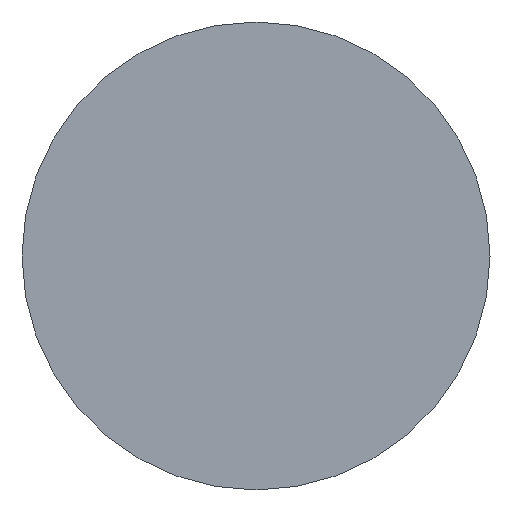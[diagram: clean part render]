
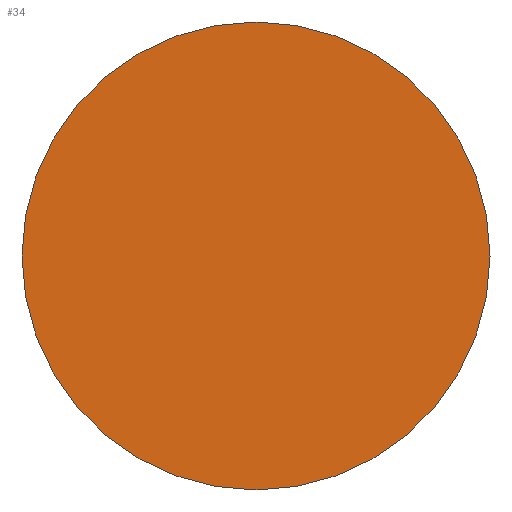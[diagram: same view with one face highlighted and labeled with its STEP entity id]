
A CAD part, front view. The second image highlights one B-rep face of the part: STEP entity #34.
In plain terms, the highlighted planar face has unit normal (0, -1, 0).
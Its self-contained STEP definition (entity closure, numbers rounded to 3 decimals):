
#3 = ORIENTED_EDGE ( 'NONE', *, *, #287, .F. ) ;
#11 = ORIENTED_EDGE ( 'NONE', *, *, #16, .F. ) ;
#16 = EDGE_CURVE ( 'NONE', #288, #329, #355, .T. ) ;
#34 = ADVANCED_FACE ( 'NONE', ( #234 ), #233, .F. ) ;
#49 = EDGE_LOOP ( 'NONE', ( #11, #3 ) ) ;
#224 = CARTESIAN_POINT ( 'NONE',  ( 0., 0., 0. ) ) ;
#233 = PLANE ( 'NONE',  #274 ) ;
#234 = FACE_OUTER_BOUND ( 'NONE', #49, .T. ) ;
#271 = DIRECTION ( 'NONE',  ( 0., 0., 1. ) ) ;
#272 = DIRECTION ( 'NONE',  ( 0., 1., 0. ) ) ;
#273 = CARTESIAN_POINT ( 'NONE',  ( 0., 0., 0. ) ) ;
#274 = AXIS2_PLACEMENT_3D ( 'NONE', #273, #272, #271 ) ;
#287 = EDGE_CURVE ( 'NONE', #329, #288, #773, .T. ) ;
#288 = VERTEX_POINT ( 'NONE', #841 ) ;
#329 = VERTEX_POINT ( 'NONE', #854 ) ;
#352 = DIRECTION ( 'NONE',  ( 0., 0., 1. ) ) ;
#353 = DIRECTION ( 'NONE',  ( 0., 1., 0. ) ) ;
#354 = AXIS2_PLACEMENT_3D ( 'NONE', #224, #353, #352 ) ;
#355 = CIRCLE ( 'NONE', #354, 12. ) ;
#769 = DIRECTION ( 'NONE',  ( 0., 0., 1. ) ) ;
#770 = DIRECTION ( 'NONE',  ( 0., 1., 0. ) ) ;
#771 = CARTESIAN_POINT ( 'NONE',  ( 0., 0., 0. ) ) ;
#772 = AXIS2_PLACEMENT_3D ( 'NONE', #771, #770, #769 ) ;
#773 = CIRCLE ( 'NONE', #772, 12. ) ;
#841 = CARTESIAN_POINT ( 'NONE',  ( 0., 0., -12. ) ) ;
#854 = CARTESIAN_POINT ( 'NONE',  ( 0., 0., 12. ) ) ;
